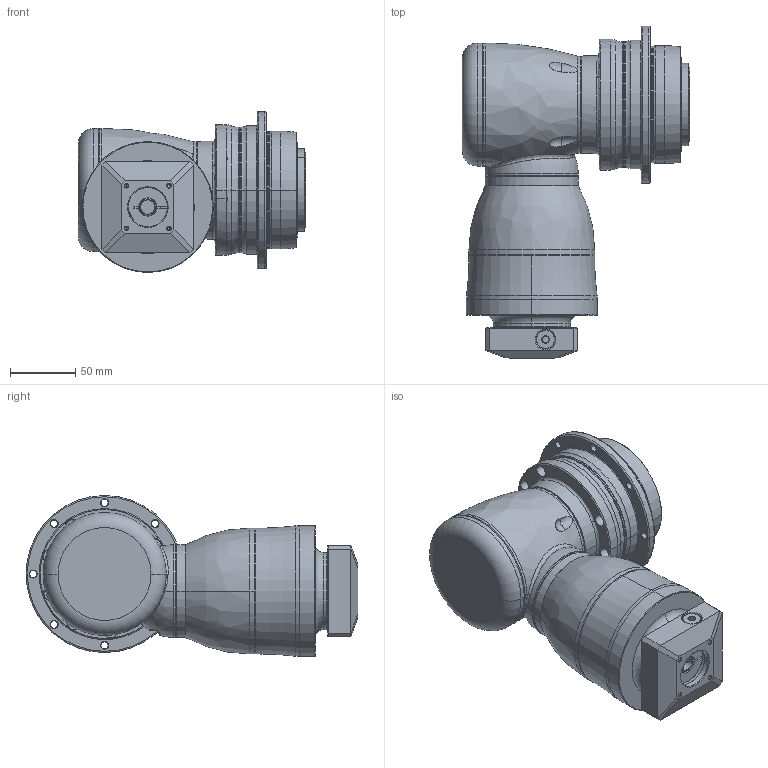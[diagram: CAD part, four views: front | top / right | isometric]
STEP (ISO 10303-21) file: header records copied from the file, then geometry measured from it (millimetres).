
FILE_DESCRIPTION((''),'2;1');
FILE_NAME('AHKB090_3ST_8-P0409200101_ASM','2016-12-09T',('d01943'),(''),'PRO/ENGINEER BY PARAMETRIC TECHNOLOGY CORPORATION, 2008410','PRO/ENGINEER BY PARAMETRIC TECHNOLOGY CORPORATION, 2008410','');
FILE_SCHEMA(('CONFIG_CONTROL_DESIGN'));
Length unit declared in the file: millimetre
Products named in the file (12): P1008300002; P1802300011; P0278300003; P0359300002; P1315300001; P1007300001; P1317300101; P0409200101; P0503200005; P0912201001; 21711410012; AHKB090_3ST_8-P0409200101_ASM
Assembly tree (11 placements, depth 2):
  AHKB090_3ST_8-P0409200101_ASM
    P1008300002
    P1802300011
    P0278300003
    P0359300002
    P1315300001
    P1007300001
    P1317300101
    P0409200101
    P0503200005
    P0912201001
    21711410012
Bounding box: 173.5 x 253.5 x 123 mm (x, y, z)
Volume: 1421536.9 mm3; surface area: 266799.5 mm2
Topology: 12 solids, 12 shells, 993 faces, 2289 edges, 1328 vertices
Faces by surface type: cylinder 350, cone 306, plane 143, torus 128, bspline 64, sphere 2
Entity records: 36539 total; most frequent: CARTESIAN_POINT 14079, DIRECTION 5052, ORIENTED_EDGE 4366, EDGE_CURVE 2183, AXIS2_PLACEMENT_3D 2166, VERTEX_POINT 1322, CIRCLE 1214, EDGE_LOOP 1151
